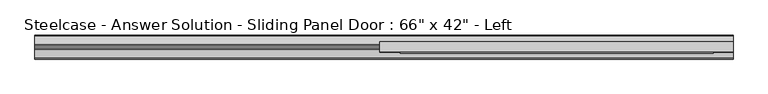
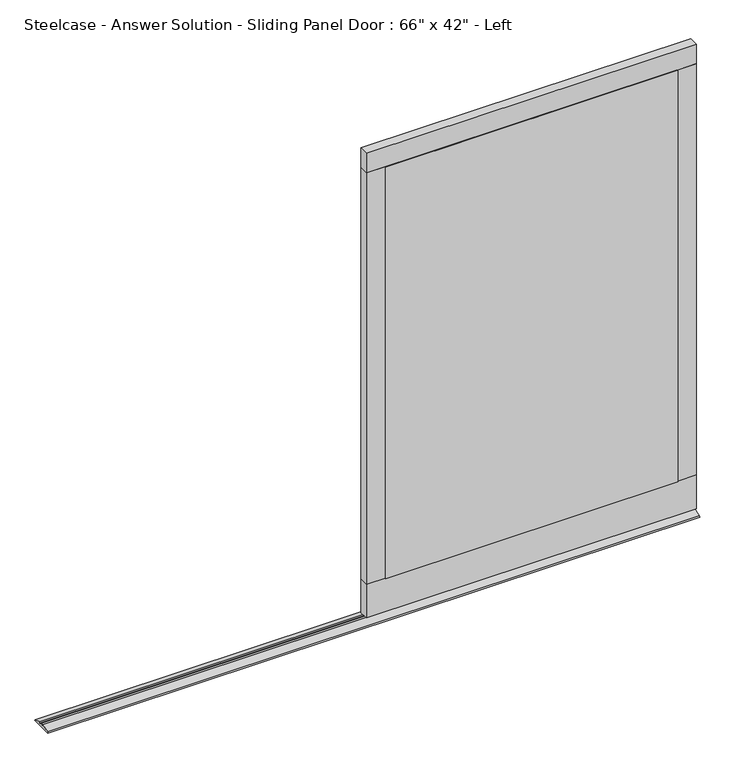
"""IFC4 building model written with IfcOpenShell, lengths in millimetres: furniture geometry."""

from ifc_helpers import new_model, si_unit, frame, origin, place, context, project, spatial, polyline, outline, extrude, source, transform, mapped, element, save


def furniture_88c2c04d(model_context):
    return source(origin(), model_context, "Body", "SweptSolid", [
        extrude(outline(polyline([(2159.0, -53.9597878), (1041.4, -53.9597878), (1041.4, -22.2097635), (2159.0, -22.2097635), (2159.0, -53.9597878)])), frame((0.0, 0.0, 1610.3589729), z_axis=(0.0, 0.0, 1.0), x_axis=(1.0, 0.0, 0.0)), (0.0, 0.0, 1.0), 69.8499516),
        extrude(outline(polyline([(1104.8999031, -53.9597878), (1041.4, -53.9597878), (1041.4, -22.2097635), (1104.8999031, -22.2097635), (1104.8999031, -53.9597878)])), frame((0.0, 0.0, 137.1589275), z_axis=(0.0, 0.0, 1.0), x_axis=(1.0, 0.0, 0.0)), (0.0, 0.0, 1.0), 1473.2000454),
        extrude(outline(polyline([(2159.0, -53.9597878), (2095.5000969, -53.9597878), (2095.5000969, -22.2097635), (2159.0, -22.2097635), (2159.0, -53.9597878)])), frame((0.0, 0.0, 137.1589275), z_axis=(0.0, 0.0, 1.0), x_axis=(1.0, 0.0, 0.0)), (0.0, 0.0, 1.0), 1473.2000454),
        extrude(outline(polyline([(2159.0, -53.9597878), (1041.4, -53.9597878), (1041.4, -22.2097635), (2159.0, -22.2097635), (2159.0, -53.9597878)])), frame((0.0, 0.0, 16.5089245), z_axis=(0.0, 0.0, 1.0), x_axis=(1.0, 0.0, 0.0)), (0.0, 0.0, 1.0), 120.650003),
        extrude(outline(polyline([(2095.5000969, -53.9597878), (2095.5000969, -57.7514894), (1104.8999031, -57.7514894), (1104.8999031, -53.9597878), (2095.5000969, -53.9597878)])), frame((0.0, 0.0, 137.1589275), z_axis=(0.0, 0.0, 1.0), x_axis=(1.0, 0.0, 0.0)), (0.0, 0.0, 1.0), 1473.2000454),
        extrude(outline(polyline([(-29.8388763, 12.2491055), (-1.9333122, 3.0138476), (0.0, 0.0), (-76.1694786, 0.0), (-74.2361664, 3.0138476), (-46.3306023, 12.2491055), (-46.3306023, 6.2879429), (-39.9806265, 6.2879429), (-39.9806265, 12.6379637), (-36.1889248, 12.6379637), (-36.1889248, 6.2879429), (-29.8388763, 6.2879429), (-29.8388763, 12.2491055)])), frame((-50.8, 0.0, 0.0), z_axis=(1.0, 0.0, 0.0), x_axis=(0.0, 1.0, 0.0)), (0.0, 0.0, 1.0), 2209.8),
    ])


if __name__ == "__main__":
    model = new_model("IFC4")
    model_context = context("Model", 3, world=origin())
    ifc_project = project(units=[si_unit("LENGTHUNIT", "METRE", prefix="MILLI")], contexts=[model_context])
    site = spatial("IfcSite", under=ifc_project)
    building = spatial("IfcBuilding", under=site)
    placement = place(None, origin())
    furniture_shape = furniture_88c2c04d(model_context)
    element("IfcFurniture", 1, ObjectType="Steelcase - Answer Solution - Sliding Panel Door : 66\" x 42\" - Left", at=placement, inside=building, context=model_context, shape_type="MappedRepresentation", body=[
        mapped(furniture_shape, transform((0.0, 0.0, 0.0), x_axis=(1.0, 0.0, 0.0), y_axis=(0.0, 1.0, 0.0), z_axis=(0.0, 0.0, 1.0))),
    ])
    save(model, "model.ifc")
